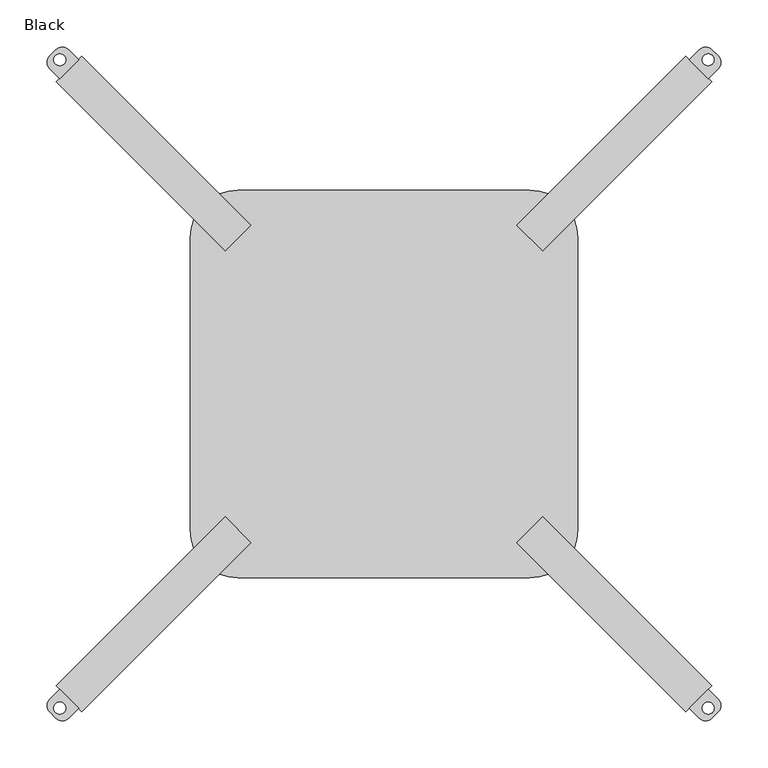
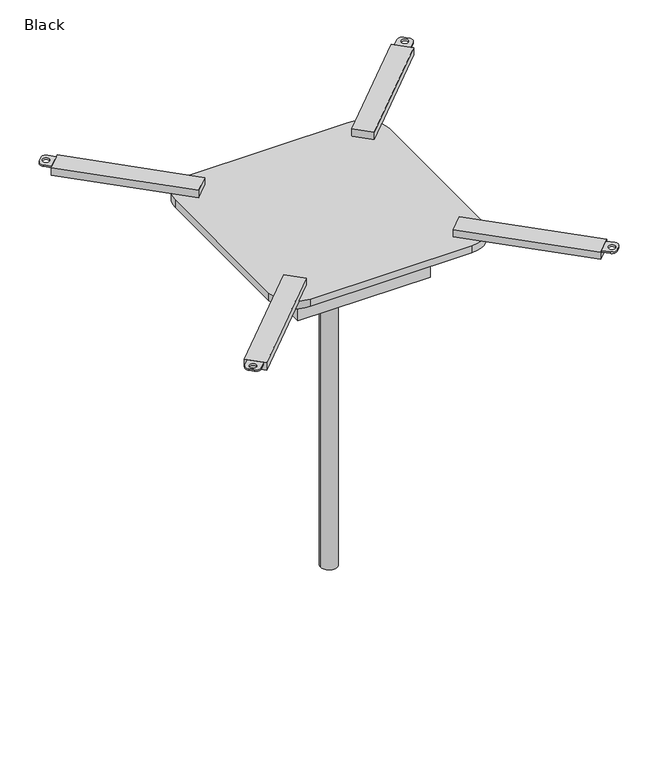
"""IFC4 building model written with IfcOpenShell, lengths in millimetres: proxy geometry, Projector_Mount-Chief-Ceiling-Large_Venue : Black."""

from ifc_helpers import new_model, si_unit, point, frame, frame_2d, origin, origin_with_axes, origin_2d, place, context, project, spatial, polyline, circle_curve, trimmed, segment, composite_curve, outline, extrude, source, transform, mapped, element, save


def black_3213ff2a(model_context):
    return source(origin(), model_context, "Body", "SweptSolid", [
        extrude(outline(polyline([(106.807, 119.634), (106.807, 116.459), (-106.807, 116.459), (-106.807, 119.634), (106.807, 119.634)])), frame((0.0, 0.0, 672.592), z_axis=(0.0, 0.0, 1.0), x_axis=(1.0, 0.0, 0.0)), (0.0, 0.0, 1.0), 30.226),
        extrude(outline(polyline([(106.807, -119.634), (-106.807, -119.634), (-106.807, -116.459), (106.807, -116.459), (106.807, -119.634)])), frame((0.0, 0.0, 672.592), z_axis=(0.0, 0.0, 1.0), x_axis=(1.0, 0.0, 0.0)), (0.0, 0.0, 1.0), 30.226),
        extrude(outline(composite_curve([segment(polyline([(344.6036051, 324.4878314), (324.4878314, 344.6036051), (334.9947311, 355.1105048)]), True, "CONTINUOUS"), segment(trimmed(circle_curve(frame_2d((341.7299232, 348.3753127)), 9.525), [point((334.9947311, 355.1105048))], [point((348.4651153, 355.1105048))], False, "CARTESIAN"), True, "CONTINUOUS"), segment(polyline([(348.4651153, 355.1105048), (355.1105048, 348.4651153)]), True, "CONTINUOUS"), segment(trimmed(circle_curve(frame_2d((348.3753127, 341.7299232)), 9.525), [point((355.1105048, 348.4651153))], [point((355.1105048, 334.9947311))], False, "CARTESIAN"), True, "CONTINUOUS"), segment(polyline([(355.1105048, 334.9947311), (344.6036051, 324.4878314)]), True, "CONTINUOUS")], self_intersect=False), holes=[composite_curve([segment(trimmed(circle_curve(frame_2d((344.424, 344.424)), 6.35), [point((338.074, 344.424))], [point((350.774, 344.424))], True, "CARTESIAN"), True, "CONTINUOUS"), segment(trimmed(circle_curve(frame_2d((344.424, 344.424)), 6.35), [point((350.774, 344.424))], [point((338.074, 344.424))], True, "CARTESIAN"), True, "CONTINUOUS")], self_intersect=False)]), frame((0.0, 0.0, 729.361), z_axis=(0.0, 0.0, 1.0), x_axis=(1.0, 0.0, 0.0)), (0.0, 0.0, 1.0), 3.175),
        extrude(outline(composite_curve([segment(polyline([(-344.6036051, 324.4878314), (-355.1105048, 334.9947311)]), True, "CONTINUOUS"), segment(trimmed(circle_curve(frame_2d((-348.3753127, 341.7299232)), 9.525), [point((-355.1105048, 334.9947311))], [point((-355.1105048, 348.4651153))], False, "CARTESIAN"), True, "CONTINUOUS"), segment(polyline([(-355.1105048, 348.4651153), (-348.4651153, 355.1105048)]), True, "CONTINUOUS"), segment(trimmed(circle_curve(frame_2d((-341.7299232, 348.3753127)), 9.525), [point((-348.4651153, 355.1105048))], [point((-334.9947311, 355.1105048))], False, "CARTESIAN"), True, "CONTINUOUS"), segment(polyline([(-334.9947311, 355.1105048), (-324.4878314, 344.6036051), (-344.6036051, 324.4878314)]), True, "CONTINUOUS")], self_intersect=False), holes=[composite_curve([segment(trimmed(circle_curve(frame_2d((-344.424, 344.424)), 6.35), [point((-350.774, 344.424))], [point((-338.074, 344.424))], True, "CARTESIAN"), True, "CONTINUOUS"), segment(trimmed(circle_curve(frame_2d((-344.424, 344.424)), 6.35), [point((-338.074, 344.424))], [point((-350.774, 344.424))], True, "CARTESIAN"), True, "CONTINUOUS")], self_intersect=False)]), frame((0.0, 0.0, 729.361), z_axis=(0.0, 0.0, 1.0), x_axis=(1.0, 0.0, 0.0)), (0.0, 0.0, 1.0), 3.175),
        extrude(outline(composite_curve([segment(polyline([(344.6036051, -324.4878314), (355.1105048, -334.9947311)]), True, "CONTINUOUS"), segment(trimmed(circle_curve(frame_2d((348.3753127, -341.7299232)), 9.525), [point((355.1105048, -334.9947311))], [point((355.1105048, -348.4651153))], False, "CARTESIAN"), True, "CONTINUOUS"), segment(polyline([(355.1105048, -348.4651153), (348.4651153, -355.1105048)]), True, "CONTINUOUS"), segment(trimmed(circle_curve(frame_2d((341.7299232, -348.3753127)), 9.525), [point((348.4651153, -355.1105048))], [point((334.9947311, -355.1105048))], False, "CARTESIAN"), True, "CONTINUOUS"), segment(polyline([(334.9947311, -355.1105048), (324.4878314, -344.6036051), (344.6036051, -324.4878314)]), True, "CONTINUOUS")], self_intersect=False), holes=[composite_curve([segment(trimmed(circle_curve(frame_2d((344.424, -344.424)), 6.35), [point((338.074, -344.424))], [point((350.774, -344.424))], True, "CARTESIAN"), True, "CONTINUOUS"), segment(trimmed(circle_curve(frame_2d((344.424, -344.424)), 6.35), [point((350.774, -344.424))], [point((338.074, -344.424))], True, "CARTESIAN"), True, "CONTINUOUS")], self_intersect=False)]), frame((0.0, 0.0, 729.361), z_axis=(0.0, 0.0, 1.0), x_axis=(1.0, 0.0, 0.0)), (0.0, 0.0, 1.0), 3.175),
        extrude(outline(composite_curve([segment(polyline([(-344.6036051, -324.4878314), (-324.4878314, -344.6036051), (-334.9947311, -355.1105048)]), True, "CONTINUOUS"), segment(trimmed(circle_curve(frame_2d((-341.7299232, -348.3753127)), 9.525), [point((-334.9947311, -355.1105048))], [point((-348.4651153, -355.1105048))], False, "CARTESIAN"), True, "CONTINUOUS"), segment(polyline([(-348.4651153, -355.1105048), (-355.1105048, -348.4651153)]), True, "CONTINUOUS"), segment(trimmed(circle_curve(frame_2d((-348.3753127, -341.7299232)), 9.525), [point((-355.1105048, -348.4651153))], [point((-355.1105048, -334.9947311))], False, "CARTESIAN"), True, "CONTINUOUS"), segment(polyline([(-355.1105048, -334.9947311), (-344.6036051, -324.4878314)]), True, "CONTINUOUS")], self_intersect=False), holes=[composite_curve([segment(trimmed(circle_curve(frame_2d((-344.424, -344.424)), 6.35), [point((-350.774, -344.424))], [point((-338.074, -344.424))], True, "CARTESIAN"), True, "CONTINUOUS"), segment(trimmed(circle_curve(frame_2d((-344.424, -344.424)), 6.35), [point((-338.074, -344.424))], [point((-350.774, -344.424))], True, "CARTESIAN"), True, "CONTINUOUS")], self_intersect=False)]), frame((0.0, 0.0, 729.361), z_axis=(0.0, 0.0, 1.0), x_axis=(1.0, 0.0, 0.0)), (0.0, 0.0, 1.0), 3.175),
        extrude(outline(polyline([(168.5905851, 141.2906065), (141.2906065, 168.5905851), (320.895729, 348.1957076), (348.1957076, 320.895729), (168.5905851, 141.2906065)])), frame((0.0, 0.0, 717.804), z_axis=(0.0, 0.0, 1.0), x_axis=(1.0, 0.0, 0.0)), (0.0, 0.0, 1.0), 14.732),
        extrude(outline(polyline([(-168.5905851, 141.2906065), (-348.1957076, 320.895729), (-320.895729, 348.1957076), (-141.2906065, 168.5905851), (-168.5905851, 141.2906065)])), frame((0.0, 0.0, 717.804), z_axis=(0.0, 0.0, 1.0), x_axis=(1.0, 0.0, 0.0)), (0.0, 0.0, 1.0), 14.732),
        extrude(outline(polyline([(168.5905851, -141.2906065), (348.1957076, -320.895729), (320.895729, -348.1957076), (141.2906065, -168.5905851), (168.5905851, -141.2906065)])), frame((0.0, 0.0, 717.804), z_axis=(0.0, 0.0, 1.0), x_axis=(1.0, 0.0, 0.0)), (0.0, 0.0, 1.0), 14.732),
        extrude(outline(polyline([(-168.5905851, -141.2906065), (-141.2906065, -168.5905851), (-320.895729, -348.1957076), (-348.1957076, -320.895729), (-168.5905851, -141.2906065)])), frame((0.0, 0.0, 717.804), z_axis=(0.0, 0.0, 1.0), x_axis=(1.0, 0.0, 0.0)), (0.0, 0.0, 1.0), 14.732),
        extrude(outline(composite_curve([segment(trimmed(circle_curve(frame_2d((155.067, 155.067)), 50.8), [point((155.067, 205.867))], [point((205.867, 155.067))], False, "CARTESIAN"), True, "CONTINUOUS"), segment(polyline([(205.867, 155.067), (205.867, -155.067)]), True, "CONTINUOUS"), segment(trimmed(circle_curve(frame_2d((155.067, -155.067)), 50.8), [point((205.867, -155.067))], [point((155.067, -205.867))], False, "CARTESIAN"), True, "CONTINUOUS"), segment(polyline([(155.067, -205.867), (-155.067, -205.867)]), True, "CONTINUOUS"), segment(trimmed(circle_curve(frame_2d((-155.067, -155.067)), 50.8), [point((-155.067, -205.867))], [point((-205.867, -155.067))], False, "CARTESIAN"), True, "CONTINUOUS"), segment(polyline([(-205.867, -155.067), (-205.867, 155.067)]), True, "CONTINUOUS"), segment(trimmed(circle_curve(frame_2d((-155.067, 155.067)), 50.8), [point((-205.867, 155.067))], [point((-155.067, 205.867))], False, "CARTESIAN"), True, "CONTINUOUS"), segment(polyline([(-155.067, 205.867), (155.067, 205.867)]), True, "CONTINUOUS")], self_intersect=False)), frame((0.0, 0.0, 702.818), z_axis=(0.0, 0.0, 1.0), x_axis=(1.0, 0.0, 0.0)), (0.0, 0.0, 1.0), 14.986),
        extrude(outline(composite_curve([segment(trimmed(circle_curve(origin_2d(), 15.875), [point((-15.875, 0.0))], [point((15.875, 0.0))], False, "CARTESIAN"), True, "CONTINUOUS"), segment(trimmed(circle_curve(origin_2d(), 15.875), [point((15.875, 0.0))], [point((-15.875, 0.0))], False, "CARTESIAN"), True, "CONTINUOUS")], self_intersect=False)), origin_with_axes(), (0.0, 0.0, 1.0), 609.6),
        extrude(outline(polyline([(609.6, 127.0), (673.1, 127.0), (673.1, 109.982), (651.764, 109.982), (651.764, -109.982), (673.1, -109.982), (673.1, -127.0), (609.6, -127.0), (609.6, 127.0)])), frame((0.0, -116.459, 0.0), z_axis=(0.0, 1.0, 0.0), x_axis=(0.0, 0.0, 1.0)), (0.0, 0.0, 1.0), 232.918),
        extrude(outline(polyline([(-109.982, 116.459), (109.982, 116.459), (109.982, -116.459), (-109.982, -116.459), (-109.982, 116.459)])), frame((0.0, 0.0, 661.67), z_axis=(0.0, 0.0, 1.0), x_axis=(1.0, 0.0, 0.0)), (0.0, 0.0, 1.0), 34.544),
    ])


if __name__ == "__main__":
    model = new_model("IFC4")
    model_context = context("Model", 3, world=origin())
    ifc_project = project(units=[si_unit("LENGTHUNIT", "METRE", prefix="MILLI")], contexts=[model_context])
    site = spatial("IfcSite", under=ifc_project)
    building = spatial("IfcBuilding", under=site)
    placement = place(None, origin())
    black_shape = black_3213ff2a(model_context)
    element("IfcBuildingElementProxy", 1, Name="Projector_Mount-Chief-Ceiling-Large_Venue : Black", ObjectType="Projector_Mount-Chief-Ceiling-Large_Venue : Black", at=placement, inside=building, context=model_context, shape_type="MappedRepresentation", body=[
        mapped(black_shape, transform((0.0, 0.0, 0.0), x_axis=(1.0, 0.0, 0.0), y_axis=(0.0, 1.0, 0.0), z_axis=(0.0, 0.0, 1.0))),
    ])
    save(model, "model.ifc")
